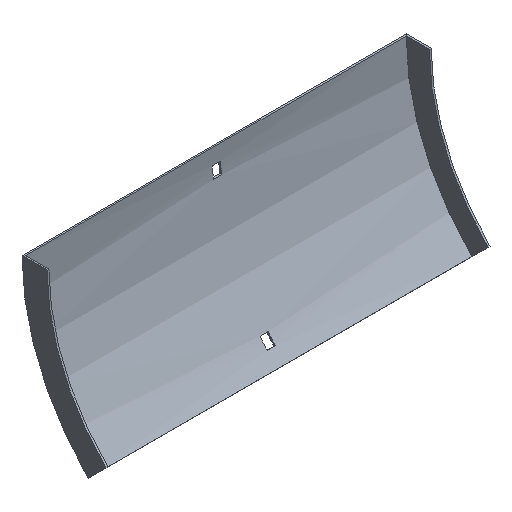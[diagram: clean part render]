
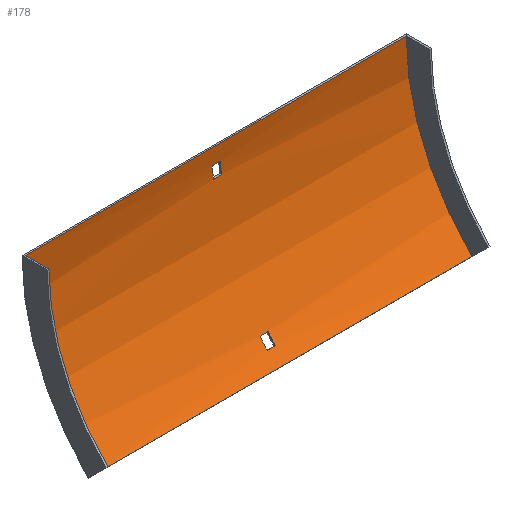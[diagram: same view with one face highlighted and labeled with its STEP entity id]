
A CAD part, isometric view. The second image highlights one B-rep face of the part: STEP entity #178.
In plain terms, the highlighted cylindrical face has radius 179 mm (diameter 358 mm), a partial arc.
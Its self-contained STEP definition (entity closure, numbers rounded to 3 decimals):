
#4 = EDGE_CURVE ( 'NONE', #449, #121, #385, .T. ) ;
#9 = CARTESIAN_POINT ( 'NONE',  ( 3.25, -45.727, -117.802 ) ) ;
#16 = VERTEX_POINT ( 'NONE', #89 ) ;
#25 = LINE ( 'NONE', #453, #271 ) ;
#29 = AXIS2_PLACEMENT_3D ( 'NONE', #495, #212, #405 ) ;
#33 = LINE ( 'NONE', #120, #250 ) ;
#34 = ORIENTED_EDGE ( 'NONE', *, *, #327, .F. ) ;
#48 = EDGE_CURVE ( 'NONE', #121, #16, #321, .T. ) ;
#51 = VECTOR ( 'NONE', #386, 1000. ) ;
#60 = CARTESIAN_POINT ( 'NONE',  ( 3.25, -39.953, -110.849 ) ) ;
#66 = EDGE_CURVE ( 'NONE', #295, #437, #425, .T. ) ;
#76 = VERTEX_POINT ( 'NONE', #337 ) ;
#81 = CARTESIAN_POINT ( 'NONE',  ( -152., -1.5, 0. ) ) ;
#84 = EDGE_LOOP ( 'NONE', ( #402, #318, #160, #288 ) ) ;
#88 = VECTOR ( 'NONE', #505, 1000. ) ;
#89 = CARTESIAN_POINT ( 'NONE',  ( -3.25, -45.727, -117.802 ) ) ;
#97 = DIRECTION ( 'NONE',  ( 1., 0., 0. ) ) ;
#103 = CIRCLE ( 'NONE', #525, 179. ) ;
#109 = ORIENTED_EDGE ( 'NONE', *, *, #381, .T. ) ;
#115 = CARTESIAN_POINT ( 'NONE',  ( -152., -180.5, 0. ) ) ;
#117 = CARTESIAN_POINT ( 'NONE',  ( 3.25, -2.736, -21. ) ) ;
#120 = CARTESIAN_POINT ( 'NONE',  ( 152., -53.928, -126.572 ) ) ;
#121 = VERTEX_POINT ( 'NONE', #9 ) ;
#127 = VECTOR ( 'NONE', #146, 1000. ) ;
#132 = EDGE_CURVE ( 'NONE', #398, #333, #484, .T. ) ;
#146 = DIRECTION ( 'NONE',  ( 1., 0., 0. ) ) ;
#147 = EDGE_CURVE ( 'NONE', #442, #76, #103, .T. ) ;
#149 = DIRECTION ( 'NONE',  ( -1., 0., 0. ) ) ;
#151 = CARTESIAN_POINT ( 'NONE',  ( -3.25, -180.5, 0. ) ) ;
#160 = ORIENTED_EDGE ( 'NONE', *, *, #132, .T. ) ;
#163 = AXIS2_PLACEMENT_3D ( 'NONE', #290, #241, #236 ) ;
#175 = CARTESIAN_POINT ( 'NONE',  ( 153.5, -2.736, -21. ) ) ;
#176 = AXIS2_PLACEMENT_3D ( 'NONE', #115, #334, #299 ) ;
#178 = ADVANCED_FACE ( 'NONE', ( #307, #344, #595 ), #548, .F. ) ;
#183 = DIRECTION ( 'NONE',  ( 0., 0., -1. ) ) ;
#187 = ORIENTED_EDGE ( 'NONE', *, *, #421, .T. ) ;
#188 = LINE ( 'NONE', #175, #88 ) ;
#193 = EDGE_LOOP ( 'NONE', ( #604, #109, #187, #378 ) ) ;
#201 = CIRCLE ( 'NONE', #417, 179. ) ;
#212 = DIRECTION ( 'NONE',  ( -1., 0., 0. ) ) ;
#219 = AXIS2_PLACEMENT_3D ( 'NONE', #234, #97, #522 ) ;
#234 = CARTESIAN_POINT ( 'NONE',  ( 152., -180.5, 0. ) ) ;
#236 = DIRECTION ( 'NONE',  ( 0., 0., -1. ) ) ;
#241 = DIRECTION ( 'NONE',  ( 1., 0., 0. ) ) ;
#246 = EDGE_CURVE ( 'NONE', #398, #432, #33, .T. ) ;
#250 = VECTOR ( 'NONE', #253, 1000. ) ;
#252 = CARTESIAN_POINT ( 'NONE',  ( -3.25, -39.953, -110.849 ) ) ;
#253 = DIRECTION ( 'NONE',  ( -1., 0., 0. ) ) ;
#257 = EDGE_CURVE ( 'NONE', #333, #298, #25, .T. ) ;
#271 = VECTOR ( 'NONE', #348, 1000. ) ;
#288 = ORIENTED_EDGE ( 'NONE', *, *, #257, .T. ) ;
#290 = CARTESIAN_POINT ( 'NONE',  ( 3.25, -180.5, 0. ) ) ;
#295 = VERTEX_POINT ( 'NONE', #117 ) ;
#298 = VERTEX_POINT ( 'NONE', #81 ) ;
#299 = DIRECTION ( 'NONE',  ( 0., 0., 1. ) ) ;
#307 = FACE_BOUND ( 'NONE', #308, .T. ) ;
#308 = EDGE_LOOP ( 'NONE', ( #394, #464, #502, #34 ) ) ;
#318 = ORIENTED_EDGE ( 'NONE', *, *, #246, .F. ) ;
#321 = LINE ( 'NONE', #530, #51 ) ;
#324 = LINE ( 'NONE', #463, #550 ) ;
#327 = EDGE_CURVE ( 'NONE', #76, #295, #188, .T. ) ;
#331 = CARTESIAN_POINT ( 'NONE',  ( -152., -53.928, -126.572 ) ) ;
#332 = DIRECTION ( 'NONE',  ( 0., 0., 1. ) ) ;
#333 = VERTEX_POINT ( 'NONE', #515 ) ;
#334 = DIRECTION ( 'NONE',  ( 1., 0., 0. ) ) ;
#337 = CARTESIAN_POINT ( 'NONE',  ( -3.25, -2.736, -21. ) ) ;
#344 = FACE_OUTER_BOUND ( 'NONE', #84, .T. ) ;
#345 = EDGE_CURVE ( 'NONE', #437, #442, #324, .T. ) ;
#348 = DIRECTION ( 'NONE',  ( -1., 0., 0. ) ) ;
#367 = DIRECTION ( 'NONE',  ( 0., 0., 1. ) ) ;
#378 = ORIENTED_EDGE ( 'NONE', *, *, #4, .T. ) ;
#379 = LINE ( 'NONE', #568, #127 ) ;
#381 = EDGE_CURVE ( 'NONE', #16, #531, #201, .T. ) ;
#385 = CIRCLE ( 'NONE', #526, 179. ) ;
#386 = DIRECTION ( 'NONE',  ( -1., 0., 0. ) ) ;
#394 = ORIENTED_EDGE ( 'NONE', *, *, #147, .F. ) ;
#398 = VERTEX_POINT ( 'NONE', #468 ) ;
#402 = ORIENTED_EDGE ( 'NONE', *, *, #563, .F. ) ;
#405 = DIRECTION ( 'NONE',  ( 0., 0., 1. ) ) ;
#416 = DIRECTION ( 'NONE',  ( 1., 0., 0. ) ) ;
#417 = AXIS2_PLACEMENT_3D ( 'NONE', #423, #416, #183 ) ;
#418 = CARTESIAN_POINT ( 'NONE',  ( 3.25, -180.5, 0. ) ) ;
#421 = EDGE_CURVE ( 'NONE', #531, #449, #379, .T. ) ;
#423 = CARTESIAN_POINT ( 'NONE',  ( -3.25, -180.5, 0. ) ) ;
#425 = CIRCLE ( 'NONE', #163, 179. ) ;
#432 = VERTEX_POINT ( 'NONE', #331 ) ;
#437 = VERTEX_POINT ( 'NONE', #523 ) ;
#442 = VERTEX_POINT ( 'NONE', #576 ) ;
#449 = VERTEX_POINT ( 'NONE', #60 ) ;
#453 = CARTESIAN_POINT ( 'NONE',  ( 152., -1.5, 0. ) ) ;
#463 = CARTESIAN_POINT ( 'NONE',  ( 153.5, -1.903, -12. ) ) ;
#464 = ORIENTED_EDGE ( 'NONE', *, *, #345, .F. ) ;
#468 = CARTESIAN_POINT ( 'NONE',  ( 152., -53.928, -126.572 ) ) ;
#484 = CIRCLE ( 'NONE', #219, 179. ) ;
#495 = CARTESIAN_POINT ( 'NONE',  ( 153.5, -180.5, 0. ) ) ;
#502 = ORIENTED_EDGE ( 'NONE', *, *, #66, .F. ) ;
#505 = DIRECTION ( 'NONE',  ( 1., 0., 0. ) ) ;
#515 = CARTESIAN_POINT ( 'NONE',  ( 152., -1.5, 0. ) ) ;
#522 = DIRECTION ( 'NONE',  ( 0., 0., 1. ) ) ;
#523 = CARTESIAN_POINT ( 'NONE',  ( 3.25, -1.903, -12. ) ) ;
#525 = AXIS2_PLACEMENT_3D ( 'NONE', #151, #149, #332 ) ;
#526 = AXIS2_PLACEMENT_3D ( 'NONE', #418, #606, #367 ) ;
#530 = CARTESIAN_POINT ( 'NONE',  ( 153.5, -45.727, -117.802 ) ) ;
#531 = VERTEX_POINT ( 'NONE', #252 ) ;
#548 = CYLINDRICAL_SURFACE ( 'NONE', #29, 179. ) ;
#550 = VECTOR ( 'NONE', #605, 1000. ) ;
#563 = EDGE_CURVE ( 'NONE', #432, #298, #575, .T. ) ;
#568 = CARTESIAN_POINT ( 'NONE',  ( 153.5, -39.953, -110.849 ) ) ;
#575 = CIRCLE ( 'NONE', #176, 179. ) ;
#576 = CARTESIAN_POINT ( 'NONE',  ( -3.25, -1.903, -12. ) ) ;
#595 = FACE_BOUND ( 'NONE', #193, .T. ) ;
#604 = ORIENTED_EDGE ( 'NONE', *, *, #48, .T. ) ;
#605 = DIRECTION ( 'NONE',  ( -1., 0., 0. ) ) ;
#606 = DIRECTION ( 'NONE',  ( -1., 0., 0. ) ) ;
